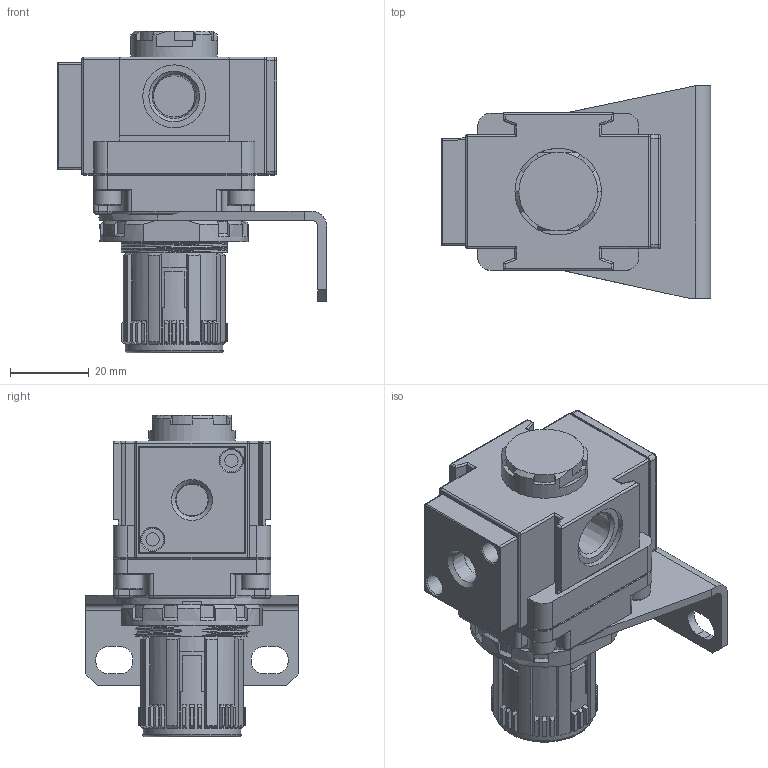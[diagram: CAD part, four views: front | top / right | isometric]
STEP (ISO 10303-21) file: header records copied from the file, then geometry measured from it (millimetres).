
FILE_DESCRIPTION(('STEP AP203'),'1');
FILE_NAME('BVR200-01.stp','2025-09-11T02:47:38',(' '),(' '),'Spatial InterOp 3D',' ',' ');
FILE_SCHEMA(('CONFIG_CONTROL_DESIGN'));
Length unit declared in the file: millimetre
Products named in the file (1): 1
Bounding box: 68.45 x 54 x 81.8 mm (x, y, z)
Volume: 97619.9 mm3; surface area: 23359.6 mm2
Topology: 1 solids, 1 shells, 584 faces, 1481 edges, 931 vertices
Faces by surface type: plane 272, cylinder 175, cone 92, torus 19, bspline 18, sphere 8
Full cylindrical faces by diameter (mm): 3.4 x2, 5.6 x2, 7 x4, 8.14 x1, 10.5 x2, 16 x2, 20.6 x1, 22 x1, 25 x1
Entity records: 20203 total; most frequent: CARTESIAN_POINT 6585, ORIENTED_EDGE 2862, DIRECTION 2841, EDGE_CURVE 1431, AXIS2_PLACEMENT_3D 1069, VERTEX_POINT 919, LINE 703, VECTOR 703
